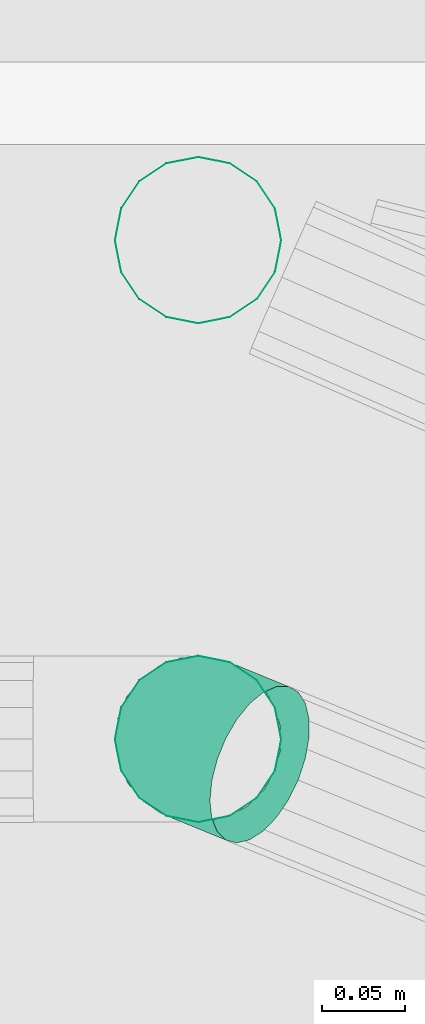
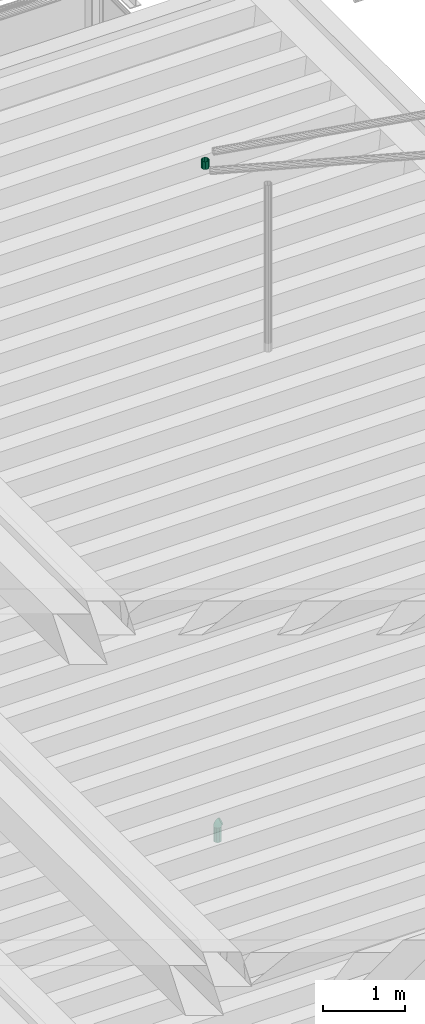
# One storey, part 96 of 106: 2 flow segments, 1 flow fitting.
"""IFC2X3 building model written with IfcOpenShell, lengths in metres."""

from ifc_helpers import new_model, entity, si_unit, converted_unit, derived_unit, money_unit, direction, frame, origin_with_axes, place, context, subcontext, project, spatial, open_shell, faceted_brep, surface_model, material, type_object, element, save


model = new_model("IFC2X3")

# Units and contexts
model_context = context("Model", 3, precision=1e-05, world=origin_with_axes(), true_north=direction((0.0, 1.0)))
body_context = subcontext(model_context, "Body", "Model", "MODEL_VIEW", scale=1.0)
ifc_project = project(units=[si_unit("LENGTHUNIT", "METRE"), si_unit("AREAUNIT", "SQUARE_METRE"), si_unit("VOLUMEUNIT", "CUBIC_METRE"), si_unit("ABSORBEDDOSEUNIT", "GRAY"), si_unit("AMOUNTOFSUBSTANCEUNIT", "MOLE"), si_unit("DOSEEQUIVALENTUNIT", "SIEVERT"), si_unit("ELECTRICCAPACITANCEUNIT", "FARAD"), si_unit("ELECTRICCHARGEUNIT", "COULOMB"), si_unit("ELECTRICCONDUCTANCEUNIT", "SIEMENS"), si_unit("ELECTRICCURRENTUNIT", "AMPERE"), si_unit("ELECTRICRESISTANCEUNIT", "OHM"), si_unit("ELECTRICVOLTAGEUNIT", "VOLT"), si_unit("ENERGYUNIT", "JOULE"), si_unit("FORCEUNIT", "NEWTON"), si_unit("FREQUENCYUNIT", "HERTZ"), si_unit("ILLUMINANCEUNIT", "LUX"), si_unit("INDUCTANCEUNIT", "HENRY"), si_unit("LUMINOUSFLUXUNIT", "LUMEN"), si_unit("LUMINOUSINTENSITYUNIT", "CANDELA"), si_unit("MAGNETICFLUXDENSITYUNIT", "TESLA"), si_unit("MAGNETICFLUXUNIT", "WEBER"), si_unit("MASSUNIT", "GRAM"), converted_unit("PLANEANGLEUNIT", "degree", entity("IfcReal", 0.0174532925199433), si_unit("PLANEANGLEUNIT", "RADIAN"), dimensions=[0, 0, 0, 0, 0, 0, 0]), si_unit("POWERUNIT", "WATT"), si_unit("PRESSUREUNIT", "PASCAL"), si_unit("RADIOACTIVITYUNIT", "BECQUEREL"), si_unit("SOLIDANGLEUNIT", "STERADIAN"), si_unit("THERMODYNAMICTEMPERATUREUNIT", "KELVIN"), si_unit("TIMEUNIT", "SECOND"), derived_unit("ACCELERATIONUNIT", [(si_unit("LENGTHUNIT", "METRE"), 1), (si_unit("TIMEUNIT", "SECOND"), -2)]), derived_unit("ANGULARVELOCITYUNIT", [(converted_unit("PLANEANGLEUNIT", "degree", entity("IfcReal", 0.0174532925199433), si_unit("PLANEANGLEUNIT", "RADIAN"), dimensions=[0, 0, 0, 0, 0, 0, 0]), 1), (si_unit("TIMEUNIT", "SECOND"), -1)]), derived_unit("CURVATUREUNIT", [(converted_unit("PLANEANGLEUNIT", "degree", entity("IfcReal", 0.0174532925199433), si_unit("PLANEANGLEUNIT", "RADIAN"), dimensions=[0, 0, 0, 0, 0, 0, 0]), 1), (si_unit("LENGTHUNIT", "METRE"), -1)]), derived_unit("DYNAMICVISCOSITYUNIT", [(si_unit("PRESSUREUNIT", "PASCAL"), 1), (si_unit("TIMEUNIT", "SECOND"), 1)]), derived_unit("HEATFLUXDENSITYUNIT", [(si_unit("POWERUNIT", "WATT"), 1), (si_unit("LENGTHUNIT", "METRE"), -2)]), derived_unit("HEATINGVALUEUNIT", [(si_unit("ENERGYUNIT", "JOULE"), 1), (si_unit("MASSUNIT", "GRAM"), -1)]), derived_unit("INTEGERCOUNTRATEUNIT", [(si_unit("TIMEUNIT", "SECOND"), -1)]), derived_unit("IONCONCENTRATIONUNIT", [(si_unit("MASSUNIT", "GRAM"), 1), (si_unit("VOLUMEUNIT", "CUBIC_METRE"), -1)]), derived_unit("ISOTHERMALMOISTURECAPACITYUNIT", [(si_unit("VOLUMEUNIT", "CUBIC_METRE"), 1), (si_unit("MASSUNIT", "GRAM"), -1)]), derived_unit("KINEMATICVISCOSITYUNIT", [(si_unit("AREAUNIT", "SQUARE_METRE"), 1), (si_unit("TIMEUNIT", "SECOND"), -1)]), derived_unit("LINEARFORCEUNIT", [(si_unit("FORCEUNIT", "NEWTON"), 1), (si_unit("LENGTHUNIT", "METRE"), -1)]), derived_unit("LINEARMOMENTUNIT", [(si_unit("FORCEUNIT", "NEWTON"), 1), (si_unit("LENGTHUNIT", "METRE"), -1)]), derived_unit("LINEARSTIFFNESSUNIT", [(si_unit("FORCEUNIT", "NEWTON"), 1), (si_unit("LENGTHUNIT", "METRE"), -1)]), derived_unit("LINEARVELOCITYUNIT", [(si_unit("LENGTHUNIT", "METRE"), 1), (si_unit("TIMEUNIT", "SECOND"), -1)]), derived_unit("LUMINOUSINTENSITYDISTRIBUTIONUNIT", [(si_unit("LUMINOUSINTENSITYUNIT", "CANDELA"), 1), (si_unit("LUMINOUSFLUXUNIT", "LUMEN"), -1)]), derived_unit("MASSDENSITYUNIT", [(si_unit("MASSUNIT", "GRAM"), 1), (si_unit("VOLUMEUNIT", "CUBIC_METRE"), -1)]), derived_unit("MASSFLOWRATEUNIT", [(si_unit("MASSUNIT", "GRAM"), 1), (si_unit("TIMEUNIT", "SECOND"), -1)]), derived_unit("MASSPERLENGTHUNIT", [(si_unit("MASSUNIT", "GRAM"), 1), (si_unit("LENGTHUNIT", "METRE"), -1)]), derived_unit("MODULUSOFELASTICITYUNIT", [(si_unit("FORCEUNIT", "NEWTON"), 1), (si_unit("AREAUNIT", "SQUARE_METRE"), -1)]), derived_unit("MODULUSOFLINEARSUBGRADEREACTIONUNIT", [(si_unit("FORCEUNIT", "NEWTON"), 1), (si_unit("LENGTHUNIT", "METRE"), -2)]), derived_unit("MODULUSOFROTATIONALSUBGRADEREACTIONUNIT", [(si_unit("FORCEUNIT", "NEWTON"), 1), (si_unit("LENGTHUNIT", "METRE"), 1)]), derived_unit("MODULUSOFSUBGRADEREACTIONUNIT", [(si_unit("FORCEUNIT", "NEWTON"), 1), (si_unit("VOLUMEUNIT", "CUBIC_METRE"), -1)]), derived_unit("MOISTUREDIFFUSIVITYUNIT", [(si_unit("VOLUMEUNIT", "CUBIC_METRE"), 1), (si_unit("TIMEUNIT", "SECOND"), -1)]), derived_unit("MOLECULARWEIGHTUNIT", [(si_unit("MASSUNIT", "GRAM"), 1), (si_unit("AMOUNTOFSUBSTANCEUNIT", "MOLE"), -1)]), derived_unit("PLANARFORCEUNIT", [(si_unit("FORCEUNIT", "NEWTON"), 1), (si_unit("LENGTHUNIT", "METRE"), -2)]), derived_unit("ROTATIONALFREQUENCYUNIT", [(si_unit("TIMEUNIT", "SECOND"), -1)]), derived_unit("ROTATIONALMASSUNIT", [(si_unit("MASSUNIT", "GRAM"), 1), (si_unit("LENGTHUNIT", "METRE"), 2)]), derived_unit("ROTATIONALSTIFFNESSUNIT", [(si_unit("FORCEUNIT", "NEWTON"), 1), (si_unit("LENGTHUNIT", "METRE"), 1), (converted_unit("PLANEANGLEUNIT", "degree", entity("IfcReal", 0.0174532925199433), si_unit("PLANEANGLEUNIT", "RADIAN"), dimensions=[0, 0, 0, 0, 0, 0, 0]), -1)]), derived_unit("SECTIONAREAINTEGRALUNIT", [(si_unit("LENGTHUNIT", "METRE"), 5)]), derived_unit("SECTIONMODULUSUNIT", [(si_unit("LENGTHUNIT", "METRE"), 3)]), derived_unit("SHEARMODULUSUNIT", [(si_unit("FORCEUNIT", "NEWTON"), 1), (si_unit("AREAUNIT", "SQUARE_METRE"), -1)]), derived_unit("SOUNDPOWERUNIT", [(si_unit("ENERGYUNIT", "JOULE"), 1), (si_unit("TIMEUNIT", "SECOND"), -1)]), derived_unit("SPECIFICHEATCAPACITYUNIT", [(si_unit("FORCEUNIT", "NEWTON"), 1), (si_unit("MASSUNIT", "GRAM"), -1), (si_unit("THERMODYNAMICTEMPERATUREUNIT", "KELVIN"), -1)]), derived_unit("TEMPERATUREGRADIENTUNIT", [(si_unit("THERMODYNAMICTEMPERATUREUNIT", "KELVIN"), 1), (si_unit("LENGTHUNIT", "METRE"), -1)]), derived_unit("THERMALADMITTANCEUNIT", [(si_unit("POWERUNIT", "WATT"), 1), (si_unit("AREAUNIT", "SQUARE_METRE"), -1), (si_unit("THERMODYNAMICTEMPERATUREUNIT", "KELVIN"), -1)]), derived_unit("THERMALCONDUCTANCEUNIT", [(si_unit("POWERUNIT", "WATT"), 1), (si_unit("LENGTHUNIT", "METRE"), -1), (si_unit("THERMODYNAMICTEMPERATUREUNIT", "KELVIN"), -1)]), derived_unit("THERMALEXPANSIONCOEFFICIENTUNIT", [(si_unit("THERMODYNAMICTEMPERATUREUNIT", "KELVIN"), -1)]), derived_unit("THERMALRESISTANCEUNIT", [(si_unit("AREAUNIT", "SQUARE_METRE"), 1), (si_unit("POWERUNIT", "WATT"), -1)]), derived_unit("THERMALTRANSMITTANCEUNIT", [(si_unit("POWERUNIT", "WATT"), 1), (si_unit("AREAUNIT", "SQUARE_METRE"), -1), (si_unit("THERMODYNAMICTEMPERATUREUNIT", "KELVIN"), -1)]), derived_unit("TORQUEUNIT", [(si_unit("FORCEUNIT", "NEWTON"), 1), (si_unit("LENGTHUNIT", "METRE"), 1)]), derived_unit("VAPORPERMEABILITYUNIT", [(si_unit("MASSUNIT", "GRAM"), 1), (si_unit("TIMEUNIT", "SECOND"), -1)]), derived_unit("VOLUMETRICFLOWRATEUNIT", [(si_unit("VOLUMEUNIT", "CUBIC_METRE"), 1), (si_unit("TIMEUNIT", "SECOND"), -1)]), derived_unit("WARPINGCONSTANTUNIT", [(si_unit("LENGTHUNIT", "METRE"), 6)]), derived_unit("WARPINGMOMENTUNIT", [(si_unit("FORCEUNIT", "NEWTON"), 1), (si_unit("LENGTHUNIT", "METRE"), 2)]), money_unit("GBP")], contexts=[model_context])

# Site, building, storey
site_placement = place(None, origin_with_axes())
site = spatial("IfcSite", under=ifc_project, at=site_placement, Name="Site", CompositionType="ELEMENT")
building_placement = place(site_placement, origin_with_axes())
building = spatial("IfcBuilding", under=site, at=building_placement, Name="Building01", CompositionType="ELEMENT")
storey_placement = place(building_placement, origin_with_axes())
storey = spatial("IfcBuildingStorey", under=building, at=storey_placement, Name="GF", CompositionType="ELEMENT", Elevation=0.0)

# Flow segments
ifc_material = material(Name="M_BSUK_ColdWater")
pipe_segment_type = type_object("IfcPipeSegmentType", Name="M-BmpStraightpipe-DefaultPipe", PredefinedType="RIGIDSEGMENT")
flow_segment_1_placement = place(storey_placement, frame((22.076661, 8.416912, 14.65064), z_axis=(1.0, 0.0, 0.0), x_axis=(0.0, 0.0, -1.0)))
element("IfcFlowSegment", 1, at=flow_segment_1_placement, inside=storey, type_object=pipe_segment_type, material=ifc_material, Name="M-BmpStraightpipe-DefaultPipe", ObjectType="M-BmpStraightpipe-DefaultPipe", context=body_context, shape_type="Brep", body=[
    faceted_brep([(0.115318, 0.0, -0.05), (0.0, 0.0, -0.05), (0.0, 0.019134, -0.046194), (0.115318, 0.019134, -0.046194), (0.0, 0.035355, -0.035355), (0.115318, 0.035355, -0.035355), (0.0, 0.046194, -0.019134), (0.115318, 0.046194, -0.019134), (0.0, 0.05, 0.0), (0.115318, 0.05, 0.0), (0.0, 0.046194, 0.019134), (0.115318, 0.046194, 0.019134), (0.0, 0.035355, 0.035355), (0.115318, 0.035355, 0.035355), (0.0, 0.019134, 0.046194), (0.115318, 0.019134, 0.046194), (0.0, 0.0, 0.05), (0.115318, 0.0, 0.05), (0.0, -0.019134, 0.046194), (0.115318, -0.019134, 0.046194), (0.0, -0.035355, 0.035355), (0.115318, -0.035355, 0.035355), (0.0, -0.046194, 0.019134), (0.115318, -0.046194, 0.019134), (0.0, -0.05, 0.0), (0.115318, -0.05, 0.0), (0.0, -0.046194, -0.019134), (0.115318, -0.046194, -0.019134), (0.0, -0.035355, -0.035355), (0.115318, -0.035355, -0.035355), (0.0, -0.019134, -0.046194), (0.115318, -0.019134, -0.046194)], [[[0, 1, 2, 3]], [[3, 2, 4, 5]], [[5, 4, 6, 7]], [[7, 6, 8, 9]], [[9, 8, 10, 11]], [[11, 10, 12, 13]], [[13, 12, 14, 15]], [[15, 14, 16, 17]], [[17, 16, 18, 19]], [[19, 18, 20, 21]], [[21, 20, 22, 23]], [[23, 22, 24, 25]], [[25, 24, 26, 27]], [[27, 26, 28, 29]], [[29, 28, 30, 31]], [[31, 30, 1, 0]]]),
])
flow_segment_2_placement = place(storey_placement, frame((22.076661, 8.116912, 4.751533), z_axis=(-1.0, 0.0, 0.0), x_axis=(0.0, 0.0, 1.0)))
element("IfcFlowSegment", 2, at=flow_segment_2_placement, inside=storey, type_object=pipe_segment_type, material=ifc_material, Name="M-BmpStraightpipe-DefaultPipe", ObjectType="M-BmpStraightpipe-DefaultPipe", context=body_context, shape_type="Brep", body=[
    faceted_brep([(0.215962, 0.0, -0.05), (0.0, 0.0, -0.05), (0.0, 0.019134, -0.046194), (0.215962, 0.019134, -0.046194), (0.0, 0.035355, -0.035355), (0.215962, 0.035355, -0.035355), (0.0, 0.046194, -0.019134), (0.215962, 0.046194, -0.019134), (0.0, 0.05, 0.0), (0.215962, 0.05, 0.0), (0.0, 0.046194, 0.019134), (0.215962, 0.046194, 0.019134), (0.0, 0.035355, 0.035355), (0.215962, 0.035355, 0.035355), (0.0, 0.019134, 0.046194), (0.215962, 0.019134, 0.046194), (0.0, 0.0, 0.05), (0.215962, 0.0, 0.05), (0.0, -0.019134, 0.046194), (0.215962, -0.019134, 0.046194), (0.0, -0.035355, 0.035355), (0.215962, -0.035355, 0.035355), (0.0, -0.046194, 0.019134), (0.215962, -0.046194, 0.019134), (0.0, -0.05, 0.0), (0.215962, -0.05, 0.0), (0.0, -0.046194, -0.019134), (0.215962, -0.046194, -0.019134), (0.0, -0.035355, -0.035355), (0.215962, -0.035355, -0.035355), (0.0, -0.019134, -0.046194), (0.215962, -0.019134, -0.046194)], [[[0, 1, 2, 3]], [[3, 2, 4, 5]], [[5, 4, 6, 7]], [[7, 6, 8, 9]], [[9, 8, 10, 11]], [[11, 10, 12, 13]], [[13, 12, 14, 15]], [[15, 14, 16, 17]], [[17, 16, 18, 19]], [[19, 18, 20, 21]], [[21, 20, 22, 23]], [[23, 22, 24, 25]], [[25, 24, 26, 27]], [[27, 26, 28, 29]], [[29, 28, 30, 31]], [[31, 30, 1, 0]]]),
])

# Flow fitting
pipe_fitting_type = type_object("IfcPipeFittingType", Name="M-BmpElbow-DefaultElbow", PredefinedType="BEND")
flow_fitting_placement = place(storey_placement, frame((22.076661, 8.116912, 4.967495), z_axis=(-0.92534959, 0.37911494, 0.0), x_axis=(0.0, 0.0, 1.0)))
element("IfcFlowFitting", 3, at=flow_fitting_placement, inside=storey, type_object=pipe_fitting_type, material=ifc_material, Name="M-BmpElbow-DefaultElbow", ObjectType="M-BmpElbow-DefaultElbow", context=body_context, shape_type="SurfaceModel", body=[
    surface_model("IfcShellBasedSurfaceModel", [(0.005531, -0.01349, -0.04863), (0.0, -0.01349, -0.048146), (0.0, 0.0, -0.05), (0.005209, 0.0, -0.050456), (0.010895, -0.01349, -0.050067), (0.010261, 0.0, -0.051809), (0.015927, -0.01349, -0.052414), (0.015, 0.0, -0.054019), (0.020475, -0.01349, -0.055598), (0.019284, 0.0, -0.057019), (0.024402, -0.01349, -0.059525), (0.022981, 0.0, -0.060716), (0.027586, -0.01349, -0.064073), (0.025981, 0.0, -0.065), (0.006473, -0.025979, -0.043287), (0.0, -0.025979, -0.042721), (0.01275, -0.025979, -0.044969), (0.01864, -0.025979, -0.047715), (0.023962, -0.025979, -0.051443), (0.028557, -0.025979, -0.056038), (0.032285, -0.025979, -0.06136), (0.007966, -0.036542, -0.034825), (0.0, -0.036542, -0.034128), (0.015689, -0.036542, -0.036894), (0.022936, -0.036542, -0.040273), (0.029486, -0.036542, -0.04486), (0.03514, -0.036542, -0.050514), (0.039727, -0.036542, -0.057064), (0.009897, -0.044394, -0.023869), (0.0, -0.044394, -0.023003), (0.019494, -0.044394, -0.026441), (0.028498, -0.044394, -0.030639), (0.036637, -0.044394, -0.036338), (0.043662, -0.044394, -0.043363), (0.049361, -0.044394, -0.051502), (0.012125, -0.048954, -0.011234), (0.0, -0.048954, -0.010173), (0.023882, -0.048954, -0.014384), (0.034914, -0.048954, -0.019528), (0.044884, -0.048954, -0.026509), (0.053491, -0.048954, -0.035116), (0.060472, -0.048954, -0.045086), (0.014484, -0.049883, 0.002145), (0.0, -0.049883, 0.003412), (0.028529, -0.049883, -0.001618), (0.041706, -0.049883, -0.007763), (0.053616, -0.049883, -0.016103), (0.063897, -0.049883, -0.026384), (0.072237, -0.049883, -0.038294), (0.016799, -0.047113, 0.015274), (0.0, -0.047113, 0.016744), (0.033088, -0.047113, 0.01091), (0.048372, -0.047113, 0.003783), (0.062186, -0.047113, -0.00589), (0.07411, -0.047113, -0.017814), (0.083783, -0.047113, -0.031628), (0.018899, -0.040848, 0.027181), (0.0, -0.040848, 0.028834), (0.037223, -0.040848, 0.022271), (0.054417, -0.040848, 0.014253), (0.069957, -0.040848, 0.003372), (0.083372, -0.040848, -0.010043), (0.094253, -0.040848, -0.025583), (0.020627, -0.031554, 0.036981), (0.0, -0.031554, 0.038786), (0.040627, -0.031554, 0.031622), (0.059393, -0.031554, 0.022871), (0.076354, -0.031554, 0.010995), (0.090995, -0.031554, -0.003646), (0.102871, -0.031554, -0.020607), (0.021855, -0.01992, 0.043948), (0.0, -0.01992, 0.045861), (0.043047, -0.01992, 0.03827), (0.06293, -0.01992, 0.028998), (0.080902, -0.01992, 0.016415), (0.096415, -0.01992, 0.000902), (0.108998, -0.01992, -0.01707), (0.022493, -0.006808, 0.047566), (0.0, -0.006808, 0.049534), (0.044303, -0.006808, 0.041722), (0.064767, -0.006808, 0.03218), (0.083263, -0.006808, 0.019229), (0.099229, -0.006808, 0.003263), (0.11218, -0.006808, -0.015233), (0.022493, 0.006808, 0.047566), (0.0, 0.006808, 0.049534), (0.044303, 0.006808, 0.041722), (0.064767, 0.006808, 0.03218), (0.083263, 0.006808, 0.019229), (0.099229, 0.006808, 0.003263), (0.11218, 0.006808, -0.015233), (0.021855, 0.01992, 0.043948), (0.0, 0.01992, 0.045861), (0.043047, 0.01992, 0.03827), (0.06293, 0.01992, 0.028998), (0.080902, 0.01992, 0.016415), (0.096415, 0.01992, 0.000902), (0.108998, 0.01992, -0.01707), (0.020627, 0.031554, 0.036981), (0.0, 0.031554, 0.038786), (0.040627, 0.031554, 0.031622), (0.059393, 0.031554, 0.022871), (0.076354, 0.031554, 0.010995), (0.090995, 0.031554, -0.003646), (0.102871, 0.031554, -0.020607), (0.018899, 0.040848, 0.027181), (0.0, 0.040848, 0.028834), (0.037223, 0.040848, 0.022271), (0.054417, 0.040848, 0.014253), (0.069957, 0.040848, 0.003372), (0.083372, 0.040848, -0.010043), (0.094253, 0.040848, -0.025583), (0.016799, 0.047113, 0.015274), (0.0, 0.047113, 0.016744), (0.033088, 0.047113, 0.01091), (0.048372, 0.047113, 0.003783), (0.062186, 0.047113, -0.00589), (0.07411, 0.047113, -0.017814), (0.083783, 0.047113, -0.031628), (0.014484, 0.049883, 0.002145), (0.0, 0.049883, 0.003412), (0.028529, 0.049883, -0.001618), (0.041706, 0.049883, -0.007763), (0.053616, 0.049883, -0.016103), (0.063897, 0.049883, -0.026384), (0.072237, 0.049883, -0.038294), (0.012125, 0.048954, -0.011234), (0.0, 0.048954, -0.010173), (0.023882, 0.048954, -0.014384), (0.034914, 0.048954, -0.019528), (0.044884, 0.048954, -0.026509), (0.053491, 0.048954, -0.035116), (0.060472, 0.048954, -0.045086), (0.009897, 0.044394, -0.023869), (0.0, 0.044394, -0.023003), (0.019494, 0.044394, -0.026441), (0.028498, 0.044394, -0.030639), (0.036637, 0.044394, -0.036338), (0.043662, 0.044394, -0.043363), (0.049361, 0.044394, -0.051502), (0.007966, 0.036542, -0.034825), (0.0, 0.036542, -0.034128), (0.015689, 0.036542, -0.036894), (0.022936, 0.036542, -0.040273), (0.029486, 0.036542, -0.04486), (0.03514, 0.036542, -0.050514), (0.039727, 0.036542, -0.057064), (0.006473, 0.025979, -0.043287), (0.0, 0.025979, -0.042721), (0.01275, 0.025979, -0.044969), (0.01864, 0.025979, -0.047715), (0.023962, 0.025979, -0.051443), (0.028557, 0.025979, -0.056038), (0.032285, 0.025979, -0.06136), (0.005531, 0.01349, -0.04863), (0.0, 0.01349, -0.048146), (0.010895, 0.01349, -0.050067), (0.015927, 0.01349, -0.052414), (0.020475, 0.01349, -0.055598), (0.024402, 0.01349, -0.059525), (0.027586, 0.01349, -0.064073)], [open_shell([[[0, 1, 2, 3]], [[4, 0, 3, 5]], [[6, 4, 5, 7]], [[8, 6, 7, 9]], [[10, 8, 9, 11]], [[12, 10, 11, 13]], [[14, 15, 1, 0]], [[16, 14, 0, 4]], [[17, 16, 4, 6]], [[18, 17, 6, 8]], [[19, 18, 8, 10]], [[20, 19, 10, 12]], [[21, 22, 15, 14]], [[23, 21, 14, 16]], [[24, 23, 16, 17]], [[25, 24, 17, 18]], [[26, 25, 18, 19]], [[27, 26, 19, 20]], [[28, 29, 22, 21]], [[30, 28, 21, 23]], [[31, 30, 23, 24]], [[32, 31, 24, 25]], [[33, 32, 25, 26]], [[34, 33, 26, 27]], [[35, 36, 29, 28]], [[37, 35, 28, 30]], [[38, 37, 30, 31]], [[39, 38, 31, 32]], [[40, 39, 32, 33]], [[41, 40, 33, 34]], [[42, 43, 36, 35]], [[44, 42, 35, 37]], [[45, 44, 37, 38]], [[46, 45, 38, 39]], [[47, 46, 39, 40]], [[48, 47, 40, 41]], [[49, 50, 43, 42]], [[51, 49, 42, 44]], [[52, 51, 44, 45]], [[53, 52, 45, 46]], [[54, 53, 46, 47]], [[55, 54, 47, 48]], [[56, 57, 50, 49]], [[58, 56, 49, 51]], [[59, 58, 51, 52]], [[60, 59, 52, 53]], [[61, 60, 53, 54]], [[62, 61, 54, 55]], [[63, 64, 57, 56]], [[65, 63, 56, 58]], [[66, 65, 58, 59]], [[67, 66, 59, 60]], [[68, 67, 60, 61]], [[69, 68, 61, 62]], [[70, 71, 64, 63]], [[72, 70, 63, 65]], [[73, 72, 65, 66]], [[74, 73, 66, 67]], [[75, 74, 67, 68]], [[76, 75, 68, 69]], [[77, 78, 71, 70]], [[79, 77, 70, 72]], [[80, 79, 72, 73]], [[81, 80, 73, 74]], [[82, 81, 74, 75]], [[83, 82, 75, 76]], [[84, 85, 78, 77]], [[86, 84, 77, 79]], [[87, 86, 79, 80]], [[88, 87, 80, 81]], [[89, 88, 81, 82]], [[90, 89, 82, 83]], [[91, 92, 85, 84]], [[93, 91, 84, 86]], [[94, 93, 86, 87]], [[95, 94, 87, 88]], [[96, 95, 88, 89]], [[97, 96, 89, 90]], [[98, 99, 92, 91]], [[100, 98, 91, 93]], [[101, 100, 93, 94]], [[102, 101, 94, 95]], [[103, 102, 95, 96]], [[104, 103, 96, 97]], [[105, 106, 99, 98]], [[107, 105, 98, 100]], [[108, 107, 100, 101]], [[109, 108, 101, 102]], [[110, 109, 102, 103]], [[111, 110, 103, 104]], [[112, 113, 106, 105]], [[114, 112, 105, 107]], [[115, 114, 107, 108]], [[116, 115, 108, 109]], [[117, 116, 109, 110]], [[118, 117, 110, 111]], [[119, 120, 113, 112]], [[121, 119, 112, 114]], [[122, 121, 114, 115]], [[123, 122, 115, 116]], [[124, 123, 116, 117]], [[125, 124, 117, 118]], [[126, 127, 120, 119]], [[128, 126, 119, 121]], [[129, 128, 121, 122]], [[130, 129, 122, 123]], [[131, 130, 123, 124]], [[132, 131, 124, 125]], [[133, 134, 127, 126]], [[135, 133, 126, 128]], [[136, 135, 128, 129]], [[137, 136, 129, 130]], [[138, 137, 130, 131]], [[139, 138, 131, 132]], [[140, 141, 134, 133]], [[142, 140, 133, 135]], [[143, 142, 135, 136]], [[144, 143, 136, 137]], [[145, 144, 137, 138]], [[146, 145, 138, 139]], [[147, 148, 141, 140]], [[149, 147, 140, 142]], [[150, 149, 142, 143]], [[151, 150, 143, 144]], [[152, 151, 144, 145]], [[153, 152, 145, 146]], [[154, 155, 148, 147]], [[156, 154, 147, 149]], [[157, 156, 149, 150]], [[158, 157, 150, 151]], [[159, 158, 151, 152]], [[160, 159, 152, 153]], [[3, 2, 155, 154]], [[5, 3, 154, 156]], [[7, 5, 156, 157]], [[9, 7, 157, 158]], [[11, 9, 158, 159]], [[13, 11, 159, 160]]])]),
])

save(model, "model.ifc")
